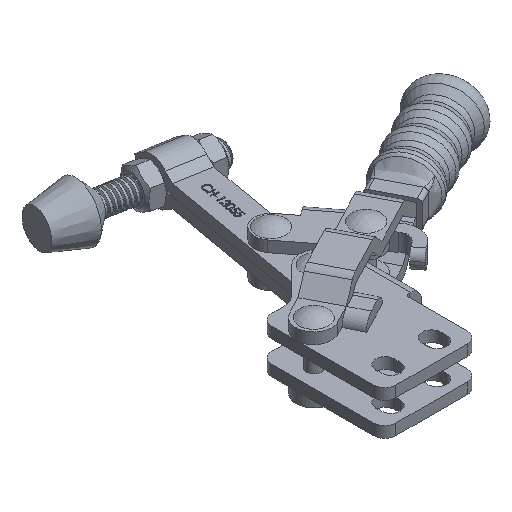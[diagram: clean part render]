
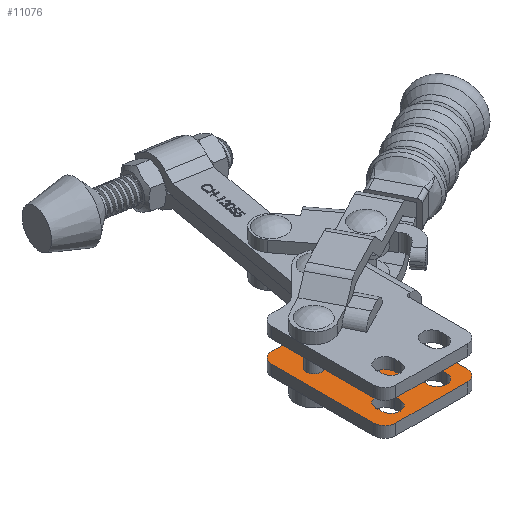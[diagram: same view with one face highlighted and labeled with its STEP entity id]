
A CAD part, isometric view. The second image highlights one B-rep face of the part: STEP entity #11076.
In plain terms, the highlighted planar face has unit normal (0, 0, 1).
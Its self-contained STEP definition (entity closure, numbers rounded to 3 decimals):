
#800=FACE_BOUND('',#1810,.T.);
#801=FACE_BOUND('',#1811,.T.);
#802=FACE_BOUND('',#1812,.T.);
#803=FACE_BOUND('',#1813,.T.);
#892=PLANE('',#11952);
#1190=FACE_OUTER_BOUND('',#1809,.T.);
#1809=EDGE_LOOP('',(#7768,#7769,#7770,#7771,#7772,#7773,#7774,#7775,#7776,
#7777,#7778,#7779,#7780,#7781,#7782,#7783));
#1810=EDGE_LOOP('',(#7784,#7785,#7786,#7787));
#1811=EDGE_LOOP('',(#7788,#7789,#7790,#7791));
#1812=EDGE_LOOP('',(#7792,#7793));
#1813=EDGE_LOOP('',(#7794,#7795));
#2457=LINE('',#15107,#3410);
#2462=LINE('',#15120,#3415);
#2467=LINE('',#15134,#3420);
#2471=LINE('',#15146,#3424);
#2475=LINE('',#15158,#3428);
#2479=LINE('',#15170,#3432);
#2484=LINE('',#15189,#3437);
#2488=LINE('',#15200,#3441);
#2492=LINE('',#15213,#3445);
#2496=LINE('',#15224,#3449);
#2505=LINE('',#15245,#3458);
#2528=LINE('',#15307,#3481);
#2541=LINE('',#15341,#3494);
#3410=VECTOR('',#12670,1000.);
#3415=VECTOR('',#12681,1000.);
#3420=VECTOR('',#12694,1000.);
#3424=VECTOR('',#12706,1000.);
#3428=VECTOR('',#12718,1000.);
#3432=VECTOR('',#12730,1000.);
#3437=VECTOR('',#12749,1000.);
#3441=VECTOR('',#12761,1000.);
#3445=VECTOR('',#12773,1000.);
#3449=VECTOR('',#12785,1000.);
#3458=VECTOR('',#12804,1000.);
#3481=VECTOR('',#12875,1000.);
#3494=VECTOR('',#12914,1000.);
#4347=CIRCLE('',#11847,2.);
#4348=CIRCLE('',#11848,2.);
#4351=CIRCLE('',#11852,2.);
#4352=CIRCLE('',#11853,2.);
#4366=CIRCLE('',#11869,1.);
#4369=CIRCLE('',#11876,5.5);
#4371=CIRCLE('',#11880,3.);
#4373=CIRCLE('',#11884,3.);
#4375=CIRCLE('',#11888,3.);
#4377=CIRCLE('',#11892,1.);
#4379=CIRCLE('',#11895,2.6);
#4381=CIRCLE('',#11899,2.6);
#4383=CIRCLE('',#11903,2.6);
#4385=CIRCLE('',#11907,2.6);
#4391=CIRCLE('',#11920,4.8);
#4633=VERTEX_POINT('',#15018);
#4634=VERTEX_POINT('',#15019);
#4637=VERTEX_POINT('',#15028);
#4638=VERTEX_POINT('',#15029);
#4669=VERTEX_POINT('',#15095);
#4671=VERTEX_POINT('',#15098);
#4673=VERTEX_POINT('',#15104);
#4677=VERTEX_POINT('',#15116);
#4679=VERTEX_POINT('',#15119);
#4681=VERTEX_POINT('',#15125);
#4683=VERTEX_POINT('',#15131);
#4685=VERTEX_POINT('',#15137);
#4687=VERTEX_POINT('',#15143);
#4689=VERTEX_POINT('',#15149);
#4691=VERTEX_POINT('',#15155);
#4693=VERTEX_POINT('',#15161);
#4695=VERTEX_POINT('',#15167);
#4697=VERTEX_POINT('',#15173);
#4699=VERTEX_POINT('',#15179);
#4700=VERTEX_POINT('',#15180);
#4703=VERTEX_POINT('',#15188);
#4705=VERTEX_POINT('',#15194);
#4707=VERTEX_POINT('',#15203);
#4708=VERTEX_POINT('',#15204);
#4711=VERTEX_POINT('',#15212);
#4713=VERTEX_POINT('',#15218);
#4721=VERTEX_POINT('',#15244);
#4736=VERTEX_POINT('',#15305);
#5790=EDGE_CURVE('',#4633,#4634,#4347,.T.);
#5791=EDGE_CURVE('',#4634,#4633,#4348,.T.);
#5795=EDGE_CURVE('',#4637,#4638,#4351,.T.);
#5796=EDGE_CURVE('',#4638,#4637,#4352,.T.);
#5829=EDGE_CURVE('',#4669,#4671,#4366,.T.);
#5833=EDGE_CURVE('',#4673,#4669,#2457,.T.);
#5839=EDGE_CURVE('',#4677,#4679,#2462,.T.);
#5843=EDGE_CURVE('',#4681,#4677,#4369,.T.);
#5846=EDGE_CURVE('',#4683,#4681,#2467,.T.);
#5849=EDGE_CURVE('',#4685,#4683,#4371,.T.);
#5852=EDGE_CURVE('',#4687,#4685,#2471,.T.);
#5855=EDGE_CURVE('',#4689,#4687,#4373,.T.);
#5858=EDGE_CURVE('',#4689,#4691,#2475,.T.);
#5861=EDGE_CURVE('',#4693,#4691,#4375,.T.);
#5864=EDGE_CURVE('',#4695,#4693,#2479,.T.);
#5867=EDGE_CURVE('',#4697,#4695,#4377,.T.);
#5869=EDGE_CURVE('',#4699,#4700,#4379,.T.);
#5873=EDGE_CURVE('',#4703,#4699,#2484,.T.);
#5876=EDGE_CURVE('',#4705,#4703,#4381,.T.);
#5879=EDGE_CURVE('',#4700,#4705,#2488,.T.);
#5881=EDGE_CURVE('',#4707,#4708,#4383,.T.);
#5885=EDGE_CURVE('',#4711,#4707,#2492,.T.);
#5888=EDGE_CURVE('',#4713,#4711,#4385,.T.);
#5891=EDGE_CURVE('',#4708,#4713,#2496,.T.);
#5902=EDGE_CURVE('',#4671,#4721,#2505,.T.);
#5910=EDGE_CURVE('',#4679,#4673,#4391,.T.);
#5935=EDGE_CURVE('',#4736,#4697,#2528,.T.);
#5952=EDGE_CURVE('',#4721,#4736,#2541,.T.);
#7768=ORIENTED_EDGE('',*,*,#5829,.F.);
#7769=ORIENTED_EDGE('',*,*,#5833,.F.);
#7770=ORIENTED_EDGE('',*,*,#5910,.F.);
#7771=ORIENTED_EDGE('',*,*,#5839,.F.);
#7772=ORIENTED_EDGE('',*,*,#5843,.F.);
#7773=ORIENTED_EDGE('',*,*,#5846,.F.);
#7774=ORIENTED_EDGE('',*,*,#5849,.F.);
#7775=ORIENTED_EDGE('',*,*,#5852,.F.);
#7776=ORIENTED_EDGE('',*,*,#5855,.F.);
#7777=ORIENTED_EDGE('',*,*,#5858,.T.);
#7778=ORIENTED_EDGE('',*,*,#5861,.F.);
#7779=ORIENTED_EDGE('',*,*,#5864,.F.);
#7780=ORIENTED_EDGE('',*,*,#5867,.F.);
#7781=ORIENTED_EDGE('',*,*,#5935,.F.);
#7782=ORIENTED_EDGE('',*,*,#5952,.F.);
#7783=ORIENTED_EDGE('',*,*,#5902,.F.);
#7784=ORIENTED_EDGE('',*,*,#5881,.T.);
#7785=ORIENTED_EDGE('',*,*,#5891,.T.);
#7786=ORIENTED_EDGE('',*,*,#5888,.T.);
#7787=ORIENTED_EDGE('',*,*,#5885,.T.);
#7788=ORIENTED_EDGE('',*,*,#5869,.T.);
#7789=ORIENTED_EDGE('',*,*,#5879,.T.);
#7790=ORIENTED_EDGE('',*,*,#5876,.T.);
#7791=ORIENTED_EDGE('',*,*,#5873,.T.);
#7792=ORIENTED_EDGE('',*,*,#5790,.T.);
#7793=ORIENTED_EDGE('',*,*,#5791,.T.);
#7794=ORIENTED_EDGE('',*,*,#5795,.T.);
#7795=ORIENTED_EDGE('',*,*,#5796,.T.);
#11076=ADVANCED_FACE('',(#1190,#800,#801,#802,#803),#892,.F.);
#11847=AXIS2_PLACEMENT_3D('',#15020,#12598,#12599);
#11848=AXIS2_PLACEMENT_3D('',#15021,#12600,#12601);
#11852=AXIS2_PLACEMENT_3D('',#15030,#12609,#12610);
#11853=AXIS2_PLACEMENT_3D('',#15031,#12611,#12612);
#11869=AXIS2_PLACEMENT_3D('',#15099,#12662,#12663);
#11876=AXIS2_PLACEMENT_3D('',#15128,#12687,#12688);
#11880=AXIS2_PLACEMENT_3D('',#15140,#12699,#12700);
#11884=AXIS2_PLACEMENT_3D('',#15152,#12711,#12712);
#11888=AXIS2_PLACEMENT_3D('',#15164,#12723,#12724);
#11892=AXIS2_PLACEMENT_3D('',#15176,#12735,#12736);
#11895=AXIS2_PLACEMENT_3D('',#15181,#12741,#12742);
#11899=AXIS2_PLACEMENT_3D('',#15195,#12754,#12755);
#11903=AXIS2_PLACEMENT_3D('',#15205,#12765,#12766);
#11907=AXIS2_PLACEMENT_3D('',#15219,#12778,#12779);
#11920=AXIS2_PLACEMENT_3D('',#15259,#12820,#12821);
#11952=AXIS2_PLACEMENT_3D('',#15343,#12916,#12917);
#12598=DIRECTION('center_axis',(0.,0.,-1.));
#12599=DIRECTION('ref_axis',(-1.,0.,0.));
#12600=DIRECTION('center_axis',(0.,0.,-1.));
#12601=DIRECTION('ref_axis',(-1.,0.,0.));
#12609=DIRECTION('center_axis',(0.,0.,-1.));
#12610=DIRECTION('ref_axis',(-1.,0.,0.));
#12611=DIRECTION('center_axis',(0.,0.,-1.));
#12612=DIRECTION('ref_axis',(-1.,0.,0.));
#12662=DIRECTION('center_axis',(0.,0.,1.));
#12663=DIRECTION('ref_axis',(-1.,0.,0.));
#12670=DIRECTION('',(0.,-1.,0.));
#12681=DIRECTION('',(0.707,0.707,0.));
#12687=DIRECTION('center_axis',(0.,0.,1.));
#12688=DIRECTION('ref_axis',(-1.,0.,0.));
#12694=DIRECTION('',(1.,0.,0.));
#12699=DIRECTION('center_axis',(0.,0.,-1.));
#12700=DIRECTION('ref_axis',(-1.,0.,0.));
#12706=DIRECTION('',(0.,1.,0.));
#12711=DIRECTION('center_axis',(0.,0.,-1.));
#12712=DIRECTION('ref_axis',(-1.,0.,0.));
#12718=DIRECTION('',(1.,0.,0.));
#12723=DIRECTION('center_axis',(0.,0.,-1.));
#12724=DIRECTION('ref_axis',(-1.,0.,0.));
#12730=DIRECTION('',(0.,-1.,0.));
#12735=DIRECTION('center_axis',(0.,0.,1.));
#12736=DIRECTION('ref_axis',(-1.,0.,0.));
#12741=DIRECTION('center_axis',(0.,0.,-1.));
#12742=DIRECTION('ref_axis',(-1.,0.,0.));
#12749=DIRECTION('',(0.,1.,0.));
#12754=DIRECTION('center_axis',(0.,0.,-1.));
#12755=DIRECTION('ref_axis',(-1.,0.,0.));
#12761=DIRECTION('',(0.,-1.,0.));
#12765=DIRECTION('center_axis',(0.,0.,-1.));
#12766=DIRECTION('ref_axis',(-1.,0.,0.));
#12773=DIRECTION('',(0.,1.,0.));
#12778=DIRECTION('center_axis',(0.,0.,-1.));
#12779=DIRECTION('ref_axis',(-1.,0.,0.));
#12785=DIRECTION('',(0.,-1.,0.));
#12804=DIRECTION('',(1.,0.,0.));
#12820=DIRECTION('center_axis',(0.,0.,-1.));
#12821=DIRECTION('ref_axis',(-1.,0.,0.));
#12875=DIRECTION('',(-1.,0.,0.));
#12914=DIRECTION('',(0.,-1.,0.));
#12916=DIRECTION('center_axis',(0.,0.,-1.));
#12917=DIRECTION('ref_axis',(-1.,0.,0.));
#15018=CARTESIAN_POINT('',(-22.8,24.3,3.));
#15019=CARTESIAN_POINT('',(-18.8,24.3,3.));
#15020=CARTESIAN_POINT('Origin',(-20.8,24.3,3.));
#15021=CARTESIAN_POINT('Origin',(-20.8,24.3,3.));
#15028=CARTESIAN_POINT('',(-6.8,39.5,3.));
#15029=CARTESIAN_POINT('',(-2.8,39.5,3.));
#15030=CARTESIAN_POINT('Origin',(-4.8,39.5,3.));
#15031=CARTESIAN_POINT('Origin',(-4.8,39.5,3.));
#15095=CARTESIAN_POINT('',(0.,35.8,3.));
#15098=CARTESIAN_POINT('',(1.,34.8,3.));
#15099=CARTESIAN_POINT('Origin',(1.,35.8,3.));
#15104=CARTESIAN_POINT('',(0.,39.5,3.));
#15107=CARTESIAN_POINT('',(0.,39.5,3.));
#15116=CARTESIAN_POINT('',(-15.477,35.611,3.));
#15119=CARTESIAN_POINT('',(-8.194,42.894,3.));
#15120=CARTESIAN_POINT('',(-15.477,35.611,3.));
#15125=CARTESIAN_POINT('',(-19.366,34.,3.));
#15128=CARTESIAN_POINT('Origin',(-19.366,39.5,3.));
#15131=CARTESIAN_POINT('',(-22.6,34.,3.));
#15134=CARTESIAN_POINT('',(-22.6,34.,3.));
#15137=CARTESIAN_POINT('',(-25.6,31.,3.));
#15140=CARTESIAN_POINT('Origin',(-22.6,31.,3.));
#15143=CARTESIAN_POINT('',(-25.6,3.,3.));
#15146=CARTESIAN_POINT('',(-25.6,3.,3.));
#15149=CARTESIAN_POINT('',(-22.6,0.,3.));
#15152=CARTESIAN_POINT('Origin',(-22.6,3.,3.));
#15155=CARTESIAN_POINT('',(-3.,0.,3.));
#15158=CARTESIAN_POINT('',(1.4,0.,3.));
#15161=CARTESIAN_POINT('',(0.,3.,3.));
#15164=CARTESIAN_POINT('Origin',(-3.,3.,3.));
#15167=CARTESIAN_POINT('',(0.,19.,3.));
#15170=CARTESIAN_POINT('',(0.,3.,3.));
#15173=CARTESIAN_POINT('',(1.,20.,3.));
#15176=CARTESIAN_POINT('Origin',(1.,19.,3.));
#15179=CARTESIAN_POINT('',(-9.05,6.35,3.));
#15180=CARTESIAN_POINT('',(-3.85,6.35,3.));
#15181=CARTESIAN_POINT('Origin',(-6.45,6.35,3.));
#15188=CARTESIAN_POINT('',(-9.05,4.85,3.));
#15189=CARTESIAN_POINT('',(-9.05,6.35,3.));
#15194=CARTESIAN_POINT('',(-3.85,4.85,3.));
#15195=CARTESIAN_POINT('Origin',(-6.45,4.85,3.));
#15200=CARTESIAN_POINT('',(-3.85,6.35,3.));
#15203=CARTESIAN_POINT('',(-21.75,6.35,3.));
#15204=CARTESIAN_POINT('',(-16.55,6.35,3.));
#15205=CARTESIAN_POINT('Origin',(-19.15,6.35,3.));
#15212=CARTESIAN_POINT('',(-21.75,4.85,3.));
#15213=CARTESIAN_POINT('',(-21.75,6.35,3.));
#15218=CARTESIAN_POINT('',(-16.55,4.85,3.));
#15219=CARTESIAN_POINT('Origin',(-19.15,4.85,3.));
#15224=CARTESIAN_POINT('',(-16.55,6.35,3.));
#15244=CARTESIAN_POINT('',(1.4,34.8,3.));
#15245=CARTESIAN_POINT('',(4.4,34.8,3.));
#15259=CARTESIAN_POINT('Origin',(-4.8,39.5,3.));
#15305=CARTESIAN_POINT('',(1.4,20.,3.));
#15307=CARTESIAN_POINT('',(1.,20.,3.));
#15341=CARTESIAN_POINT('',(1.4,44.3,3.));
#15343=CARTESIAN_POINT('Origin',(1.4,44.3,3.));
